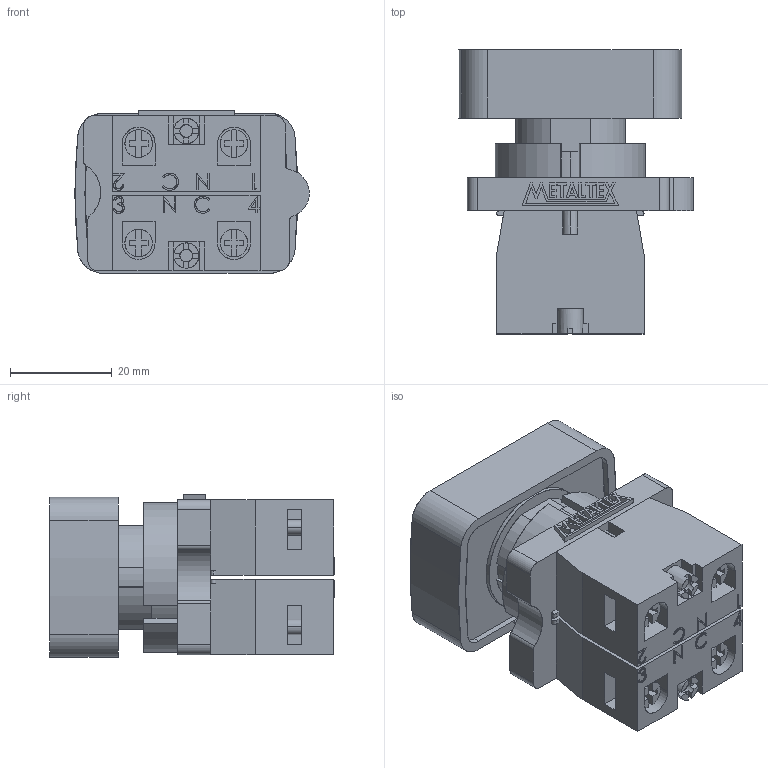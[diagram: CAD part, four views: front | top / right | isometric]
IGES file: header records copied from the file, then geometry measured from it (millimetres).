
Start section: SolidWorks IGES file using analytic representation for surfaces
Global section: file name: D:\X - Arquivos\PROEX\Empresas\P11 - METALTEX\01 - Produtos\IGES\Primeira remessa\P20APL-1C.IGS; native system: SolidWorks 2012; preprocessor: SolidWorks 2012; author: Usuario; date: 180117.114634; units: millimetre
Bounding box: 46.14 x 56 x 32 mm (x, y, z)
Surface area: 25754.5 mm2 (no closed solid volume)
Topology: 0 solids, 0 shells, 593 faces, 6298 edges, 6298 vertices
Faces by surface type: bspline 466, revolution 127
